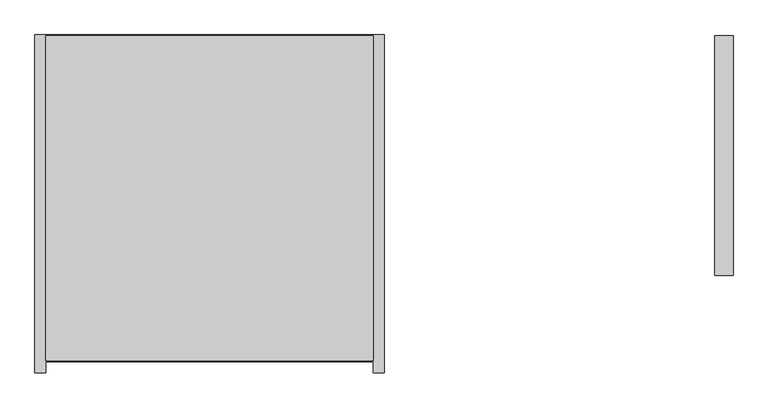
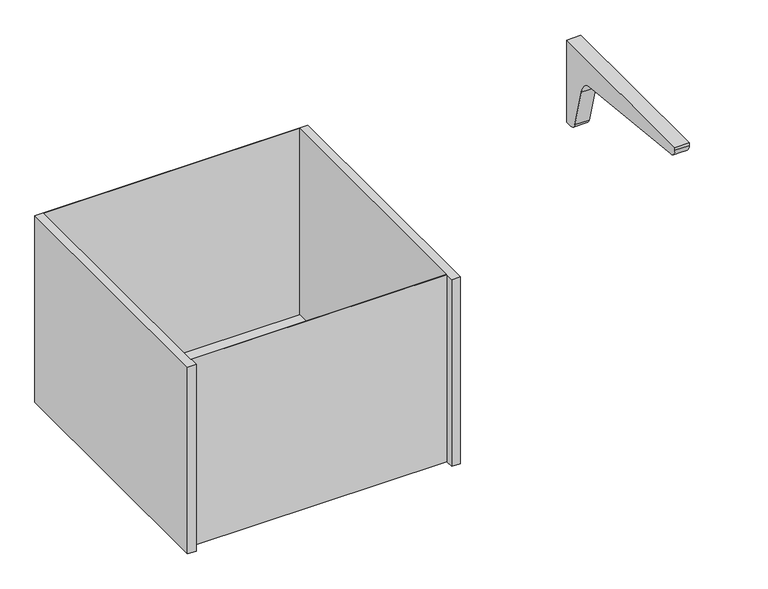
"""IFC4 building model written with IfcOpenShell, lengths in millimetres: furniture geometry."""

from ifc_helpers import new_model, si_unit, point, frame, frame_2d, origin, place, context, project, spatial, polyline, circle_curve, trimmed, segment, composite_curve, outline, extrude, faceted_brep, source, transform, mapped, element, save


def furniture_2bbb03d3(model_context):
    return source(origin(), model_context, "Body", "SolidModel", [
        extrude(outline(composite_curve([segment(polyline([(166.6875, 882.65), (166.6875, 688.975), (153.9875, 688.975)]), True, "CONTINUOUS"), segment(trimmed(circle_curve(frame_2d((151.6706081, 706.1371622)), 17.3178462), [point((153.9875, 688.975))], [point((134.9375, 701.675))], False, "CARTESIAN"), True, "CONTINUOUS"), segment(polyline([(134.9375, 701.675), (109.5375, 793.75)]), True, "CONTINUOUS"), segment(trimmed(circle_curve(frame_2d((74.1795455, 790.1420455)), 35.5415572), [point((109.5375, 793.75))], [point((77.7875, 825.5))], True, "CARTESIAN"), True, "CONTINUOUS"), segment(polyline([(77.7875, 825.5), (-233.3625, 857.25)]), True, "CONTINUOUS"), segment(trimmed(circle_curve(frame_2d((-233.3625, 876.3)), 19.05), [point((-233.3625, 857.25))], [point((-252.4125, 876.3))], False, "CARTESIAN"), True, "CONTINUOUS"), segment(polyline([(-252.4125, 876.3), (-252.4125, 882.65), (166.6875, 882.65)]), True, "CONTINUOUS")], self_intersect=False)), frame((882.65, 0.0, 0.0), z_axis=(1.0, 0.0, 0.0), x_axis=(0.0, 1.0, 0.0)), (0.0, 0.0, 1.0), 31.75),
        faceted_brep([(-304.8, 168.275, 882.65), (-304.8, -422.275, 882.65), (-285.75, -422.275, 882.65), (-285.75, -403.225, 882.65), (285.75, -403.225, 882.65), (285.75, -422.275, 882.65), (304.8, -422.275, 882.65), (304.8, 168.275, 882.65), (285.75, -401.6375, 882.65), (-285.75, -401.6375, 882.65), (-285.75, 166.6875, 882.65), (285.75, 166.6875, 882.65), (-285.75, -403.225, 441.325), (285.75, -403.225, 441.325), (-285.75, -422.275, 441.325), (-304.8, -422.275, 441.325), (-304.8, 168.275, 441.325), (304.8, 168.275, 441.325), (304.8, -422.275, 441.325), (285.75, -422.275, 441.325), (-285.75, -401.6375, 442.9125), (285.75, -401.6375, 442.9125), (285.75, 166.6875, 442.9125), (-285.75, 166.6875, 442.9125)], [[[0, 1, 2, 3, 4, 5, 6, 7], [8, 9, 10, 11]], [[4, 3, 12, 13]], [[13, 12, 14, 15, 16, 17, 18, 19]], [[0, 7, 17, 16]], [[20, 21, 22, 23]], [[9, 8, 21, 20]], [[21, 8, 11, 22]], [[19, 5, 4, 13]], [[6, 5, 19, 18]], [[7, 6, 18, 17]], [[9, 20, 23, 10]], [[2, 14, 12, 3]], [[1, 0, 16, 15]], [[2, 1, 15, 14]], [[11, 10, 23, 22]]]),
    ])


if __name__ == "__main__":
    model = new_model("IFC4")
    model_context = context("Model", 3, world=origin())
    ifc_project = project(units=[si_unit("LENGTHUNIT", "METRE", prefix="MILLI")], contexts=[model_context])
    site = spatial("IfcSite", under=ifc_project)
    building = spatial("IfcBuilding", under=site)
    placement = place(None, origin())
    furniture_shape = furniture_2bbb03d3(model_context)
    element("IfcFurniture", 1, ObjectType="HermanMiller_CoStruc_C2513_SinkUnitForStorage : 19\"H x 24\"D x 48\"W", at=placement, inside=building, context=model_context, shape_type="MappedRepresentation", body=[
        mapped(furniture_shape, transform((0.0, 0.0, 0.0), x_axis=(1.0, 0.0, 0.0), y_axis=(0.0, 1.0, 0.0), z_axis=(0.0, 0.0, 1.0))),
    ])
    save(model, "model.ifc")
